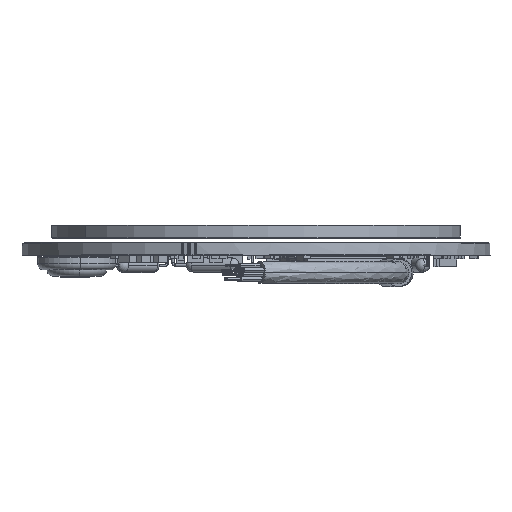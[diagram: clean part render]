
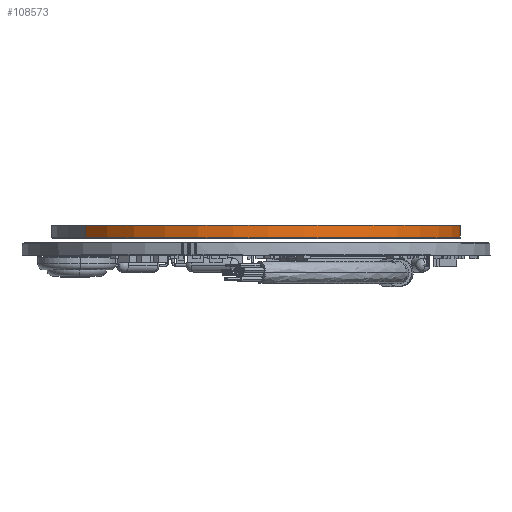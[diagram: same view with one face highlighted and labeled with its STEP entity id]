
A CAD part, top view. The second image highlights one B-rep face of the part: STEP entity #108573.
In plain terms, the highlighted cylindrical face has radius 26.1 mm (diameter 52.2 mm), a partial arc.
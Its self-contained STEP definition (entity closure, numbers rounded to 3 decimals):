
#4820 = CARTESIAN_POINT ( 'NONE',  ( 0., 1.57, 0. ) ) ;
#9417 = CARTESIAN_POINT ( 'NONE',  ( 0., 1.57, 26.1 ) ) ;
#16072 = CARTESIAN_POINT ( 'NONE',  ( 0., 0., 26.1 ) ) ;
#23861 = FACE_OUTER_BOUND ( 'NONE', #115250, .T. ) ;
#26800 = VERTEX_POINT ( 'NONE', #126029 ) ;
#26993 = ORIENTED_EDGE ( 'NONE', *, *, #59767, .T. ) ;
#38210 = EDGE_CURVE ( 'NONE', #181399, #179081, #121488, .T. ) ;
#45542 = ORIENTED_EDGE ( 'NONE', *, *, #38210, .F. ) ;
#47061 = CARTESIAN_POINT ( 'NONE',  ( 0., 1.57, -26.1 ) ) ;
#56535 = CARTESIAN_POINT ( 'NONE',  ( 0., 0., -26.1 ) ) ;
#58135 = DIRECTION ( 'NONE',  ( 0., 1., 0. ) ) ;
#59698 = CARTESIAN_POINT ( 'NONE',  ( 0., 0., 0. ) ) ;
#59767 = EDGE_CURVE ( 'NONE', #77925, #179081, #89107, .T. ) ;
#77925 = VERTEX_POINT ( 'NONE', #56535 ) ;
#89107 = CIRCLE ( 'NONE', #185352, 26.1 ) ;
#91348 = DIRECTION ( 'NONE',  ( 0., -1., 0. ) ) ;
#93544 = DIRECTION ( 'NONE',  ( 0., 1., 0. ) ) ;
#94676 = DIRECTION ( 'NONE',  ( 0., 0., -1. ) ) ;
#108573 = ADVANCED_FACE ( 'NONE', ( #23861 ), #170855, .T. ) ;
#108741 = CARTESIAN_POINT ( 'NONE',  ( 0., 1.57, 26.1 ) ) ;
#110889 = CARTESIAN_POINT ( 'NONE',  ( 0., 1.57, 0. ) ) ;
#115250 = EDGE_LOOP ( 'NONE', ( #45542, #135537, #180279, #26993 ) ) ;
#121488 = LINE ( 'NONE', #108741, #134651 ) ;
#126029 = CARTESIAN_POINT ( 'NONE',  ( 0., 1.57, -26.1 ) ) ;
#128952 = DIRECTION ( 'NONE',  ( 0., 0., 1. ) ) ;
#134651 = VECTOR ( 'NONE', #91348, 1000. ) ;
#134773 = DIRECTION ( 'NONE',  ( 0., -1., 0. ) ) ;
#135537 = ORIENTED_EDGE ( 'NONE', *, *, #213115, .F. ) ;
#144514 = DIRECTION ( 'NONE',  ( 0., 0., 1. ) ) ;
#152767 = LINE ( 'NONE', #47061, #204460 ) ;
#167439 = AXIS2_PLACEMENT_3D ( 'NONE', #4820, #58135, #128952 ) ;
#170855 = CYLINDRICAL_SURFACE ( 'NONE', #220510, 26.1 ) ;
#176240 = EDGE_CURVE ( 'NONE', #26800, #77925, #152767, .T. ) ;
#179081 = VERTEX_POINT ( 'NONE', #16072 ) ;
#180279 = ORIENTED_EDGE ( 'NONE', *, *, #176240, .T. ) ;
#181399 = VERTEX_POINT ( 'NONE', #9417 ) ;
#185352 = AXIS2_PLACEMENT_3D ( 'NONE', #59698, #93544, #144514 ) ;
#189631 = CIRCLE ( 'NONE', #167439, 26.1 ) ;
#204460 = VECTOR ( 'NONE', #223565, 1000. ) ;
#213115 = EDGE_CURVE ( 'NONE', #26800, #181399, #189631, .T. ) ;
#220510 = AXIS2_PLACEMENT_3D ( 'NONE', #110889, #134773, #94676 ) ;
#223565 = DIRECTION ( 'NONE',  ( 0., -1., 0. ) ) ;
